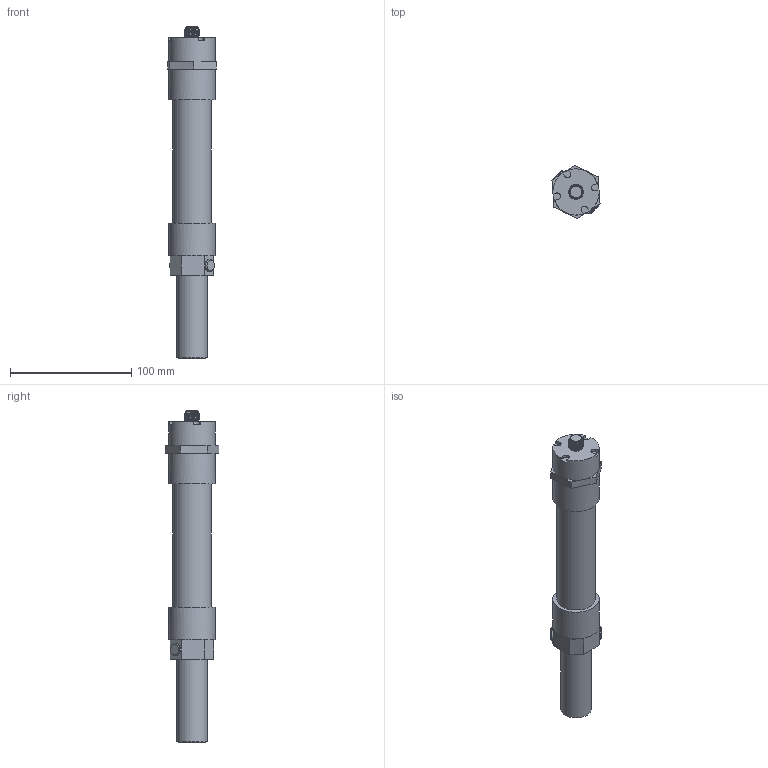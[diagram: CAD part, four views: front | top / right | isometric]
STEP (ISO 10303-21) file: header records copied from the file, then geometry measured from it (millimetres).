
FILE_DESCRIPTION(/* description */ (''),/* implementation_level */ '2;1');
FILE_NAME(/* name */ 'ASSY,VFIA,22MM,CLAMP MOUNT,100MM,S2 (614-49499) STEP FILE - REV C.stp',/* time_stamp */ '2026-01-21T08:05:58-05:00',/* author */ ('ASSY,VFIA,22MM,CLAMP MOUNT,100MM,S2'),/* organization */ ('CenterLine (Windsor) Limited'),/* preprocessor_version */ 'ST-DEVELOPER v20',/* originating_system */ 'Autodesk Inventor 2024',/* authorisation */ '');
FILE_SCHEMA (('AUTOMOTIVE_DESIGN { 1 0 10303 214 3 1 1 }'));
Length unit declared in the file: centimetre
Products named in the file (2): Assembly1; [Primary]_ASSY,VFIA,22MM,CLAMP MOUNT,100MM,S2
Assembly tree (1 placements, depth 2):
  Assembly1
    [Primary]_ASSY,VFIA,22MM,CLAMP MOUNT,100MM,S2
Bounding box: 39.63 x 43.87 x 273.74 mm (x, y, z)
Volume: 223366 mm3; surface area: 30860.4 mm2
Topology: 1 solids, 1 shells, 98 faces, 233 edges, 146 vertices
Faces by surface type: plane 60, cylinder 19, bspline 9, cone 8, torus 2
Full cylindrical faces by diameter (mm): 10 x1, 10.6 x2, 12 x5, 25.4 x1, 31.75 x1, 38.1 x3
Entity records: 8327 total; most frequent: CARTESIAN_POINT 6024, ORIENTED_EDGE 466, DIRECTION 458, EDGE_CURVE 233, AXIS2_PLACEMENT_3D 166, VERTEX_POINT 145, LINE 126, VECTOR 126
